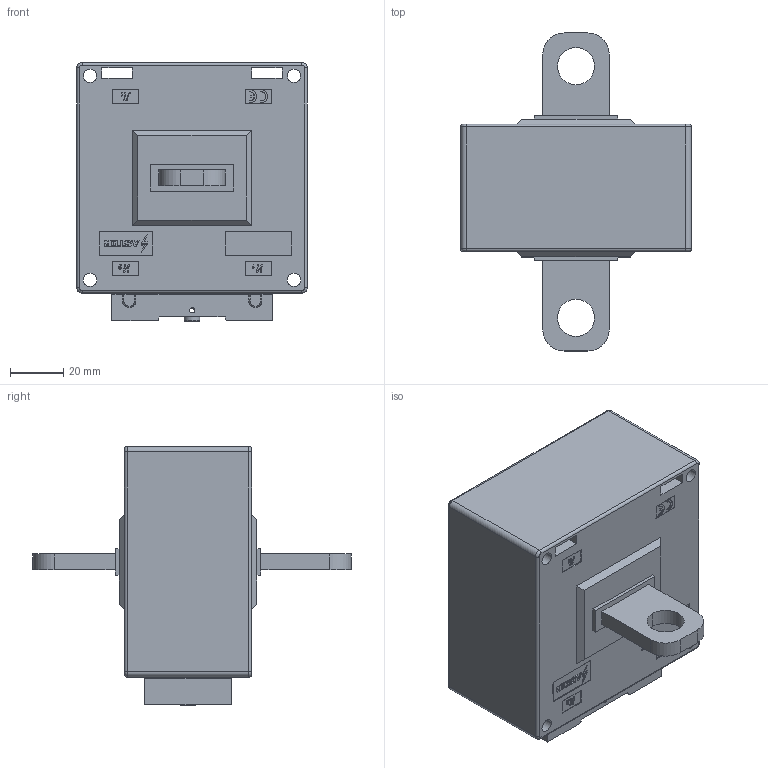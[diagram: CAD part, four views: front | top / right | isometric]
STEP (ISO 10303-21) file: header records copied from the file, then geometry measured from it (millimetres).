
FILE_DESCRIPTION (( 'STEP AP203' ), '1' );
FILE_NAME ('ﾒﾒ-ﾀ (400-600 A).STEP', '2016-12-19T10:44:06', ( '' ), ( '' ), 'SwSTEP 2.0', 'SolidWorks 2015', '' );
FILE_SCHEMA (( 'CONFIG_CONTROL_DESIGN' ));
Length unit declared in the file: millimetre
Products named in the file (1): ﾒﾒ-ﾀ (400-600 A)
Bounding box: 87 x 120 x 97.7 mm (x, y, z)
Volume: 379108.2 mm3; surface area: 53246.5 mm2
Topology: 2 solids, 2 shells, 1077 faces, 2816 edges, 1808 vertices
Faces by surface type: plane 609, bspline 255, cylinder 185, cone 20, torus 8
Entity records: 41204 total; most frequent: CARTESIAN_POINT 16570, ORIENTED_EDGE 5616, DIRECTION 4038, EDGE_CURVE 2808, LINE 1872, VECTOR 1872, VERTEX_POINT 1808, EDGE_LOOP 1190
